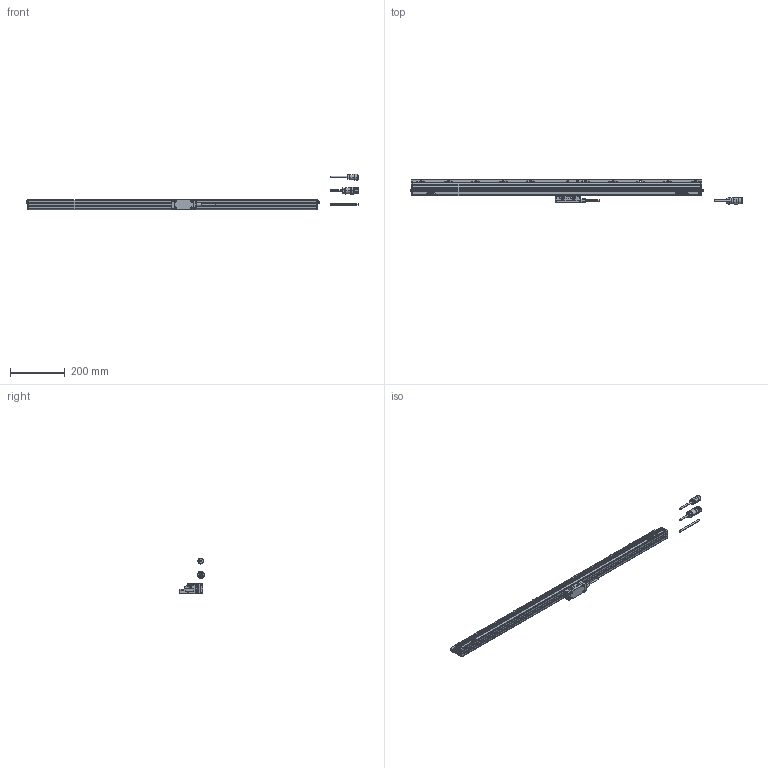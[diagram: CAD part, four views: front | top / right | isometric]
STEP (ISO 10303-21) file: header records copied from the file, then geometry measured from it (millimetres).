
FILE_DESCRIPTION(('Creo Elements/Direct Modeling STEP Export'),'2;1');
FILE_NAME('AT402E-940.stp','2018-02-21T11:57:25',(''),(''),'Creo Elements/Direct Modeling STEP processor for AP214 (Solid Model)','Creo Elements/Direct Modeling 18.1B 29-Sep-2012 (C) Parametric Technology GmbH','');
FILE_SCHEMA(('AUTOMOTIVE_DESIGN { 1 0 10303 214 1 1 1 1 }'));
Length unit declared in the file: millimetre
Products named in the file (6): Scale_940; Connector_typeA; Detector_Head; Connector_typeB; Connector_typeC; AT402E-940
Assembly tree (5 placements, depth 2):
  AT402E-940
    Connector_typeC
    Connector_typeB
    Detector_Head
    Connector_typeA
    Scale_940
Bounding box: 1209.63 x 90 x 130.25 mm (x, y, z)
Volume: 1815864.1 mm3; surface area: 244047.2 mm2
Topology: 5 solids, 5 shells, 1227 faces, 3553 edges, 2408 vertices
Faces by surface type: plane 686, cylinder 407, torus 50, bspline 46, cone 26, sphere 12
Entity records: 45646 total; most frequent: CARTESIAN_POINT 13819, ORIENTED_EDGE 7106, DIRECTION 6125, EDGE_CURVE 3553, VERTEX_POINT 2408, VECTOR 2101, LINE 2101, AXIS2_PLACEMENT_3D 2012
